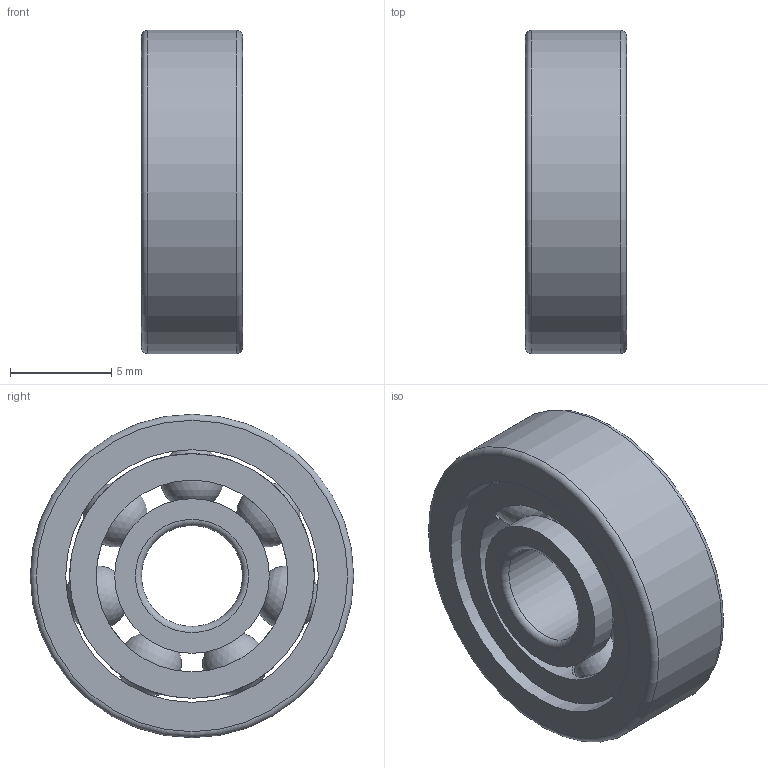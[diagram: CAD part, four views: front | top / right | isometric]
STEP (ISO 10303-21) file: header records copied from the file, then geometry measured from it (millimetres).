
FILE_DESCRIPTION(/* description */ (''),/* implementation_level */ '2;1');
FILE_NAME(/* name */ 'S_625_TA.step',/* time_stamp */ '2013-03-06T14:48:55+01:00',/* author */ ('Marian'),/* organization */ ('GMN'),/* preprocessor_version */ 'ST-DEVELOPER v11',/* originating_system */ 'SIEMENS UGS NX 6.0',/* authorisation */ '');
FILE_SCHEMA (('CONFIG_CONTROL_DESIGN'));
Length unit declared in the file: millimetre
Products named in the file (1): S_625_TA
Bounding box: 5 x 16 x 16 mm (x, y, z)
Volume: 682.3 mm3; surface area: 1386.3 mm2
Topology: 10 solids, 10 shells, 34 faces, 76 edges, 48 vertices
Faces by surface type: cylinder 14, sphere 7, torus 6, plane 6, cone 1
Full cylindrical faces by diameter (mm): 3.375 x7, 5 x1, 7.65 x2, 9.485 x1, 12.1 x1, 12.5 x1, 16 x1
Entity records: 1576 total; most frequent: CARTESIAN_POINT 908, DIRECTION 110, FACE_BOUND 75, EDGE_LOOP 68, ORIENTED_EDGE 68, AXIS2_PLACEMENT_3D 55, VERTEX_POINT 41, EDGE_CURVE 34
